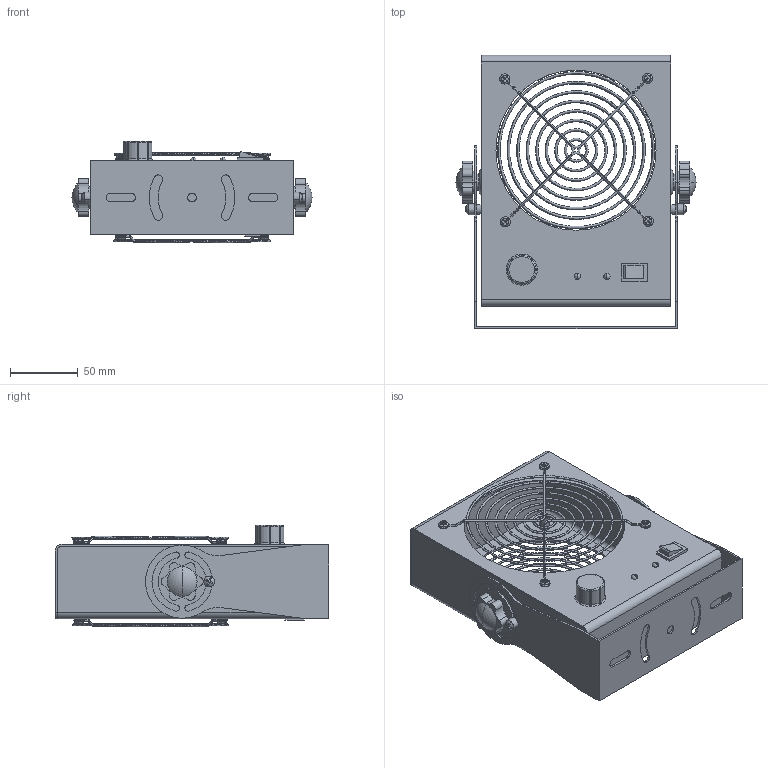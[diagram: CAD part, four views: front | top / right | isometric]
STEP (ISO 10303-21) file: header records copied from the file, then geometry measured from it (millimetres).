
FILE_DESCRIPTION (( 'STEP AP214' ), '1' );
FILE_NAME ('AP-DC2451×°Åä - 21.10.18.STEP', '2021-10-19T07:54:57', ( '' ), ( '' ), 'SwSTEP 2.0', 'SolidWorks 2020', '' );
FILE_SCHEMA (( 'AUTOMOTIVE_DESIGN' ));
Length unit declared in the file: millimetre
Products named in the file (7): 2451綴醱啣 - 21.10.18; M4-10忒襪蹟佪; M6湮蹟裝參忒; 2451ヶ醱啣; 厙欶湍蹟佪; 2451支架 -21.10.18（转角）; AP-DC2451蚾饜 - 21.10.18
Assembly tree (9 placements, depth 2):
  AP-DC2451蚾饜 - 21.10.18
    2451ヶ醱啣
    2451綴醱啣 - 21.10.18
    厙欶湍蹟佪  x2
    M6湮蹟裝參忒  x2
    2451支架 -21.10.18（转角）
    M4-10忒襪蹟佪  x2
Bounding box: 177 x 201.5 x 74.8 mm (x, y, z)
Volume: 142509.7 mm3; surface area: 199993.2 mm2
Topology: 7 solids, 17 shells, 940 faces, 2660 edges, 1670 vertices
Faces by surface type: cylinder 367, plane 343, bspline 210, torus 12, sphere 8
Entity records: 27926 total; most frequent: CARTESIAN_POINT 9205, ORIENTED_EDGE 3342, DIRECTION 3043, EDGE_CURVE 1671, AXIS2_PLACEMENT_3D 1186, VERTEX_POINT 1064, EDGE_LOOP 685, CIRCLE 678
